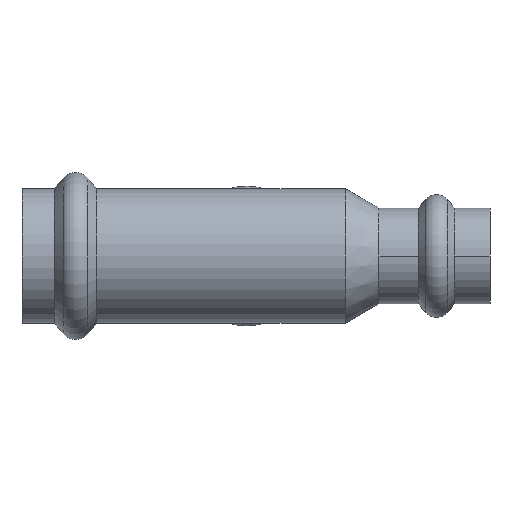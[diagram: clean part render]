
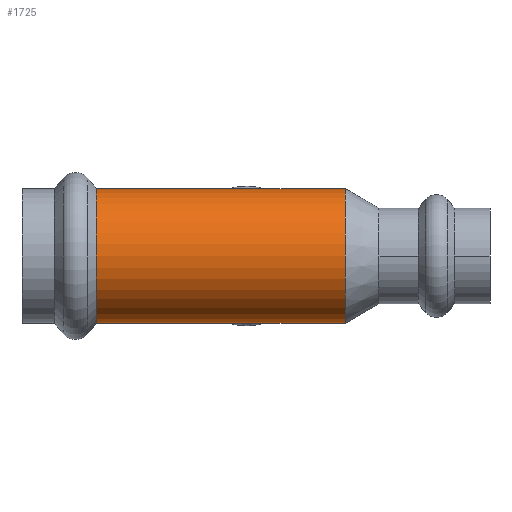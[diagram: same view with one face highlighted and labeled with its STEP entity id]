
A CAD part, front view. The second image highlights one B-rep face of the part: STEP entity #1725.
In plain terms, the highlighted cylindrical face has radius 12.6 mm (diameter 25.2 mm), a partial arc.
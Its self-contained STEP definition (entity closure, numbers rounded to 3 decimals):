
#185 = CARTESIAN_POINT ( 'NONE',  ( -58.611, 0., -12.6 ) ) ;
#273 = CIRCLE ( 'NONE', #1561, 12.6 ) ;
#297 = LINE ( 'NONE', #185, #3459 ) ;
#348 = DIRECTION ( 'NONE',  ( 0., 0., 1. ) ) ;
#397 = CARTESIAN_POINT ( 'NONE',  ( 18.423, 0., 0. ) ) ;
#536 = ORIENTED_EDGE ( 'NONE', *, *, #3878, .F. ) ;
#773 = DIRECTION ( 'NONE',  ( 0., 0., 1. ) ) ;
#795 = EDGE_CURVE ( 'NONE', #3957, #3354, #273, .T. ) ;
#1075 = FACE_OUTER_BOUND ( 'NONE', #1170, .T. ) ;
#1118 = ORIENTED_EDGE ( 'NONE', *, *, #2446, .F. ) ;
#1136 = DIRECTION ( 'NONE',  ( -1., 0., 0. ) ) ;
#1170 = EDGE_LOOP ( 'NONE', ( #536, #1118, #3997, #3743 ) ) ;
#1310 = CARTESIAN_POINT ( 'NONE',  ( -28.072, 0., 12.6 ) ) ;
#1335 = DIRECTION ( 'NONE',  ( 0., 0., 1. ) ) ;
#1406 = AXIS2_PLACEMENT_3D ( 'NONE', #397, #2774, #773 ) ;
#1534 = AXIS2_PLACEMENT_3D ( 'NONE', #3306, #2984, #1335 ) ;
#1561 = AXIS2_PLACEMENT_3D ( 'NONE', #2947, #2725, #348 ) ;
#1634 = DIRECTION ( 'NONE',  ( -1., 0., 0. ) ) ;
#1725 = ADVANCED_FACE ( 'NONE', ( #1075 ), #3503, .T. ) ;
#2154 = EDGE_CURVE ( 'NONE', #2981, #3957, #3669, .T. ) ;
#2387 = CIRCLE ( 'NONE', #1406, 12.6 ) ;
#2446 = EDGE_CURVE ( 'NONE', #2981, #3517, #2387, .T. ) ;
#2725 = DIRECTION ( 'NONE',  ( 1., 0., 0. ) ) ;
#2774 = DIRECTION ( 'NONE',  ( 1., 0., 0. ) ) ;
#2947 = CARTESIAN_POINT ( 'NONE',  ( -28.072, 0., 0. ) ) ;
#2981 = VERTEX_POINT ( 'NONE', #3121 ) ;
#2984 = DIRECTION ( 'NONE',  ( -1., 0., 0. ) ) ;
#2994 = CARTESIAN_POINT ( 'NONE',  ( -28.072, 0., -12.6 ) ) ;
#3119 = CARTESIAN_POINT ( 'NONE',  ( -58.611, 0., 12.6 ) ) ;
#3121 = CARTESIAN_POINT ( 'NONE',  ( 18.423, 0., 12.6 ) ) ;
#3306 = CARTESIAN_POINT ( 'NONE',  ( -58.611, 0., 0. ) ) ;
#3354 = VERTEX_POINT ( 'NONE', #2994 ) ;
#3459 = VECTOR ( 'NONE', #1634, 1000. ) ;
#3503 = CYLINDRICAL_SURFACE ( 'NONE', #1534, 12.6 ) ;
#3517 = VERTEX_POINT ( 'NONE', #3757 ) ;
#3557 = VECTOR ( 'NONE', #1136, 1000. ) ;
#3669 = LINE ( 'NONE', #3119, #3557 ) ;
#3743 = ORIENTED_EDGE ( 'NONE', *, *, #795, .T. ) ;
#3757 = CARTESIAN_POINT ( 'NONE',  ( 18.423, 0., -12.6 ) ) ;
#3878 = EDGE_CURVE ( 'NONE', #3517, #3354, #297, .T. ) ;
#3957 = VERTEX_POINT ( 'NONE', #1310 ) ;
#3997 = ORIENTED_EDGE ( 'NONE', *, *, #2154, .T. ) ;
